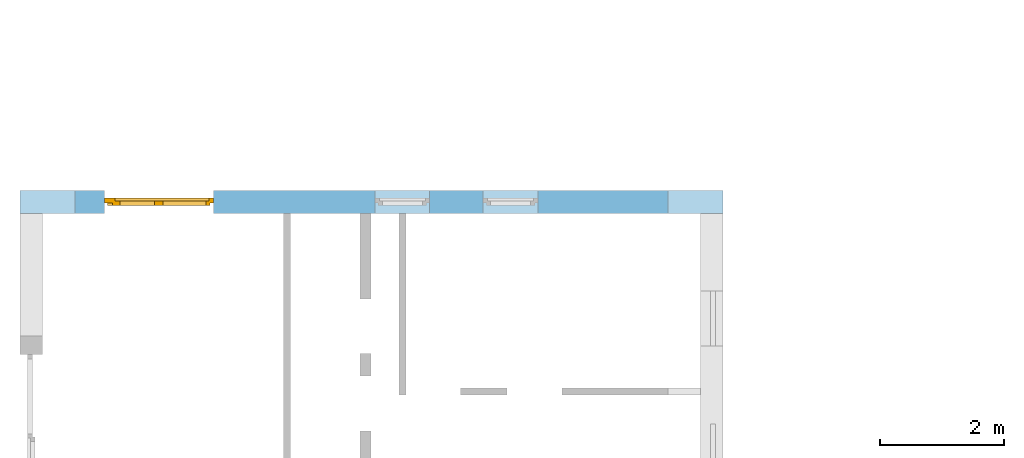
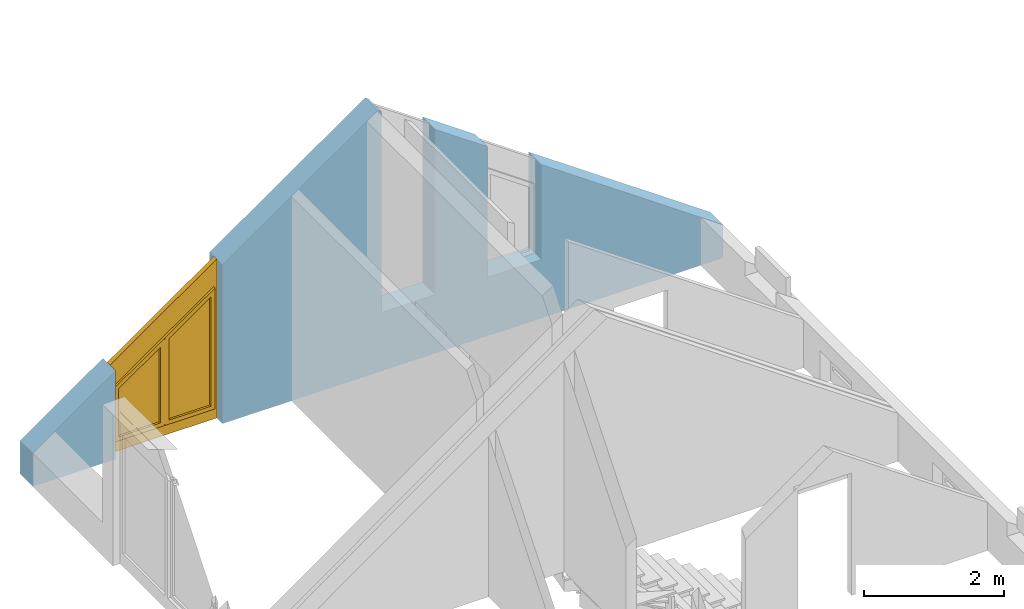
# One storey, part 10 of 23: 1 window, 3 openings, plus 1 element that does not belong to this part.
"""IFC2X3 building model written with IfcOpenShell, lengths in millimetres."""

from ifc_helpers import new_model, entity, si_unit, converted_unit, frame, frame_2d, origin, origin_with_axes, place, context, subcontext, project, spatial, polyline, rectangle, outline, extrude, clip, bounded_halfspace, faceted_brep, material, layer, layer_set, layer_usage, type_object, element, fill, save


model = new_model("IFC2X3")

# Units and contexts
model_context = context("Model", 3, precision=1e-05, world=origin())
body_context = subcontext(model_context, "Body", "Model", "MODEL_VIEW")
ifc_project = project(units=[si_unit("LENGTHUNIT", "METRE", prefix="MILLI"), converted_unit("PLANEANGLEUNIT", "DEGREE", entity("IfcPlaneAngleMeasure", 0.0174532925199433), si_unit("PLANEANGLEUNIT", "RADIAN"), dimensions=[0, 0, 0, 0, 0, 0, 0]), si_unit("AREAUNIT", "SQUARE_METRE"), si_unit("VOLUMEUNIT", "CUBIC_METRE")], contexts=[model_context])

# Building, storey
building_placement = place(None, origin())
building = spatial("IfcBuilding", under=ifc_project, at=building_placement, Name="Gebäude", CompositionType="ELEMENT")
storey_placement = place(building_placement, frame((0.0, 0.0, 5580.0), z_axis=(0.0, 0.0, 1.0), x_axis=(1.0, 0.0, 0.0)))
storey = spatial("IfcBuildingStorey", under=building, at=storey_placement, Name="DG.- Grundriss", CompositionType="ELEMENT", Elevation=5580.0)

# Wall, openings, window
ifc_material_1 = material(Name="Poroton")
ifc_layer = layer(ifc_material_1, 365.0000000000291)
ifc_layer_set = layer_set([ifc_layer])
ifc_layer_usage = layer_usage(ifc_layer_set, "AXIS2", "POSITIVE", 0.0)
wall_placement = place(storey_placement, frame((142357.7928067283, 136889.8877324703, 0.0), z_axis=(0.0, 0.0, 1.0), x_axis=(-1.0, 0.0, 0.0)))
wall = element("IfcWallStandardCase", 1, at=wall_placement, inside=storey, material=ifc_layer_usage, Name="<Unnamed Element>", context=body_context, shape_type="Clipping", body=[
    clip(clip(extrude(rectangle(XDim=11365.00000000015, YDim=365.0000000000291, at=frame_2d((5682.500000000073, 182.5000000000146), x_axis=(1.0, 0.0))), origin_with_axes(), (0.0, 0.0, 1.0), 4558.92933587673), bounded_halfspace(frame((5682.500000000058, 365.0000000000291, 4558.92933587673), z_axis=(0.5735764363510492, 0.0, -0.8191520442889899), x_axis=(-0.8191520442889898, 0.0, -0.5735764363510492)), True, origin(), polyline([(5682.500000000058, 365.0000000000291), (0.0, 365.0000000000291), (0.0, 0.0), (5682.500000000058, 0.0), (5682.500000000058, 365.0000000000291)]))), bounded_halfspace(frame((5682.500000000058, 365.0000000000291, 4558.92933587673), z_axis=(-0.5735764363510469, 0.0, -0.8191520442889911), x_axis=(0.0, -1.0, 0.0)), True, origin(), polyline([(5682.500000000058, 365.0000000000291), (5682.500000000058, 0.0), (11365.00000000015, 0.0), (11365.00000000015, 365.0000000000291), (5682.500000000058, 365.0000000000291)]))),
])
opening_1_placement = place(wall_placement, frame((8240.0, 0.0, 0.0), z_axis=(0.0, 1.0, 0.0), x_axis=(0.0, 0.0, 1.0)))
opening_1 = element("IfcOpeningElement", 2, at=opening_1_placement, cuts=wall, Name="Fensteröffnung", ObjectType="Opening", context=body_context, shape_type="SweptSolid", body=[
    extrude(outline(polyline([(0.0, 1760.0), (0.0, 0.0), (2768.148556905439, 0.0), (1535.783289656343, 1760.0), (0.0, 1760.0)])), origin_with_axes(), (0.0, 0.0, 1.0), 365.0000000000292),
])
opening_2_placement = place(wall_placement, frame((2990.0, 0.0, 1020.0), z_axis=(0.0, 1.0, 0.0), x_axis=(0.0, 0.0, 1.0)))
element("IfcOpeningElement", 3, at=opening_2_placement, cuts=wall, Name="Fensteröffnung", ObjectType="Opening", context=body_context, shape_type="SweptSolid", body=[
    extrude(outline(polyline([(0.0, 885.0), (0.0, 0.0), (1653.620539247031, 0.0), (2273.30421056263, 885.0), (0.0, 885.0)])), origin_with_axes(), (0.0, 0.0, 1.0), 365.0000000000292),
])
opening_3_placement = place(wall_placement, frame((4740.0, 0.0, 1020.0), z_axis=(0.0, 1.0, 0.0), x_axis=(0.0, 0.0, 1.0)))
element("IfcOpeningElement", 4, at=opening_3_placement, cuts=wall, Name="Fensteröffnung", ObjectType="Opening", context=body_context, shape_type="SweptSolid", body=[
    extrude(outline(polyline([(0.0, 885.0), (0.0, 0.0), (2878.983731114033, 0.0), (3498.667402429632, 885.0), (0.0, 885.0)])), origin_with_axes(), (0.0, 0.0, 1.0), 365.0000000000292),
])
ifc_material_2 = material()
window_style = type_object("IfcWindowStyle", Name="Fenster", ConstructionType="NOTDEFINED", OperationType="USERDEFINED", ParameterTakesPrecedence=False, Sizeable=False)
window_placement = place(opening_1_placement, frame((0.0, 0.0, 0.0), z_axis=(1.0, 0.0, 0.0), x_axis=(0.0, 1.0, 0.0)))
window = element("IfcWindow", 5, at=window_placement, inside=storey, type_object=window_style, material=ifc_material_2, Name="Fenster", OverallHeight=2768.148556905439, OverallWidth=1760.0, context=body_context, shape_type="Brep", body=[
    faceted_brep([(9.797174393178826e-15, 200.0000000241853, -2.449293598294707e-15), (1760.0, 200.0000000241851, -2.449293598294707e-15), (1760.0, 200.0000000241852, 1535.783289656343), (9.797174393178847e-15, 200.0000000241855, 2768.148556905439), (1690.0, 200.0000000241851, 220.0), (69.99999999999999, 200.0000000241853, 220.0), (70.00000000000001, 200.0000000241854, 2267.44743138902), (1690.0, 200.0000000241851, 1133.111219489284), (1760.0, 120.0000000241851, 2.449293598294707e-15), (0.0, 120.0000000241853, 2.449293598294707e-15), (2.088393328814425e-29, 120.0000000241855, 2768.148556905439), (1760.0, 120.0000000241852, 1535.783289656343), (69.99999999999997, 120.0000000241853, 220.0), (1690.0, 120.0000000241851, 220.0), (1690.0, 120.0000000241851, 1133.111219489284), (70.0, 120.0000000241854, 2267.44743138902), (1760.0, 200.0000000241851, -2.449293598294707e-15), (9.797174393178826e-15, 200.0000000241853, -2.449293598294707e-15), (0.0, 120.0000000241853, 2.449293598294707e-15), (1760.0, 120.0000000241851, 2.449293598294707e-15), (1760.0, 200.0000000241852, 1535.783289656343), (1760.0, 200.0000000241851, -2.449293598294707e-15), (1760.0, 120.0000000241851, 2.449293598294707e-15), (1760.0, 120.0000000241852, 1535.783289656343), (9.797174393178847e-15, 200.0000000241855, 2768.148556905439), (1760.0, 200.0000000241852, 1535.783289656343), (1760.0, 120.0000000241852, 1535.783289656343), (2.088393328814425e-29, 120.0000000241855, 2768.148556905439), (9.797174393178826e-15, 200.0000000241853, -2.449293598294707e-15), (9.797174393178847e-15, 200.0000000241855, 2768.148556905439), (2.088393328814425e-29, 120.0000000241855, 2768.148556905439), (0.0, 120.0000000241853, 2.449293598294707e-15), (1690.0, 200.0000000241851, 220.0), (1690.0, 120.0000000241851, 220.0), (69.99999999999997, 120.0000000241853, 220.0), (69.99999999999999, 200.0000000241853, 220.0), (1690.0, 200.0000000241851, 1133.111219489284), (1690.0, 120.0000000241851, 1133.111219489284), (1690.0, 120.0000000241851, 220.0), (1690.0, 200.0000000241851, 220.0), (70.00000000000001, 200.0000000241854, 2267.44743138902), (70.0, 120.0000000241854, 2267.44743138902), (1690.0, 120.0000000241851, 1133.111219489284), (1690.0, 200.0000000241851, 1133.111219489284), (69.99999999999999, 200.0000000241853, 220.0), (69.99999999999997, 120.0000000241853, 220.0), (70.0, 120.0000000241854, 2267.44743138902), (70.00000000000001, 200.0000000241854, 2267.44743138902)], [[[0, 1, 2, 3], [4, 5, 6, 7]], [[8, 9, 10, 11], [12, 13, 14, 15]], [[16, 17, 18, 19]], [[20, 21, 22, 23]], [[24, 25, 26, 27]], [[28, 29, 30, 31]], [[32, 33, 34, 35]], [[36, 37, 38, 39]], [[40, 41, 42, 43]], [[44, 45, 46, 47]]], orient=[[False, False], [False, False], [False], [False], [False], [False], [False], [False], [False], [False]]),
    faceted_brep([(859.500000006, 240.0000000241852, 220.0), (859.500000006, 240.0000000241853, 1714.63357996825), (70.00000000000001, 240.0000000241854, 2267.44743138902), (69.99999999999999, 240.0000000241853, 220.0), (809.500000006, 240.0000000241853, 1688.605227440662), (809.500000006, 240.0000000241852, 270.0), (120.0, 240.0000000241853, 270.0), (120.0, 240.0000000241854, 2171.398325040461), (859.500000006, 170.0000000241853, 1714.63357996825), (859.500000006, 170.0000000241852, 220.0), (69.99999999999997, 170.0000000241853, 220.0), (70.0, 170.0000000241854, 2267.44743138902), (809.500000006, 170.0000000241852, 270.0), (809.500000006, 170.0000000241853, 1688.605227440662), (120.0, 170.0000000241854, 2171.398325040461), (120.0, 170.0000000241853, 270.0), (859.500000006, 240.0000000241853, 1714.63357996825), (859.500000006, 240.0000000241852, 220.0), (859.500000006, 170.0000000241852, 220.0), (859.500000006, 170.0000000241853, 1714.63357996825), (70.00000000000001, 240.0000000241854, 2267.44743138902), (859.500000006, 240.0000000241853, 1714.63357996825), (859.500000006, 170.0000000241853, 1714.63357996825), (70.0, 170.0000000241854, 2267.44743138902), (69.99999999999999, 240.0000000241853, 220.0), (70.00000000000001, 240.0000000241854, 2267.44743138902), (70.0, 170.0000000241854, 2267.44743138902), (69.99999999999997, 170.0000000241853, 220.0), (859.500000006, 240.0000000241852, 220.0), (69.99999999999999, 240.0000000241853, 220.0), (69.99999999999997, 170.0000000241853, 220.0), (859.500000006, 170.0000000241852, 220.0), (809.500000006, 240.0000000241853, 1688.605227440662), (809.500000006, 170.0000000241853, 1688.605227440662), (809.500000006, 170.0000000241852, 270.0), (809.500000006, 240.0000000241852, 270.0), (120.0, 240.0000000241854, 2171.398325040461), (120.0, 170.0000000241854, 2171.398325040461), (809.500000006, 170.0000000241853, 1688.605227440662), (809.500000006, 240.0000000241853, 1688.605227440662), (120.0, 240.0000000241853, 270.0), (120.0, 170.0000000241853, 270.0), (120.0, 170.0000000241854, 2171.398325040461), (120.0, 240.0000000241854, 2171.398325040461), (809.500000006, 240.0000000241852, 270.0), (809.500000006, 170.0000000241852, 270.0), (120.0, 170.0000000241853, 270.0), (120.0, 240.0000000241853, 270.0)], [[[0, 1, 2, 3], [4, 5, 6, 7]], [[8, 9, 10, 11], [12, 13, 14, 15]], [[16, 17, 18, 19]], [[20, 21, 22, 23]], [[24, 25, 26, 27]], [[28, 29, 30, 31]], [[32, 33, 34, 35]], [[36, 37, 38, 39]], [[40, 41, 42, 43]], [[44, 45, 46, 47]]], orient=[[False, False], [False, False], [False], [False], [False], [False], [False], [False], [False], [False]]),
    faceted_brep([(879.500000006, 240.0000000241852, 200.0), (879.500000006, 240.0000000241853, 1725.044920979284), (50.00000000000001, 240.0000000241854, 2305.867073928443), (49.99999999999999, 240.0000000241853, 200.0), (859.500000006, 240.0000000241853, 1714.63357996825), (859.500000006, 240.0000000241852, 220.0), (69.99999999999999, 240.0000000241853, 220.0), (70.00000000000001, 240.0000000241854, 2267.44743138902), (879.500000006, 170.0000000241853, 1725.044920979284), (879.500000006, 170.0000000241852, 200.0), (49.99999999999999, 170.0000000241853, 200.0), (50.00000000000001, 170.0000000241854, 2305.867073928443), (859.500000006, 170.0000000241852, 220.0), (859.500000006, 170.0000000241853, 1714.63357996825), (70.0, 170.0000000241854, 2267.44743138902), (69.99999999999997, 170.0000000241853, 220.0), (879.500000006, 240.0000000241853, 1725.044920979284), (879.500000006, 240.0000000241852, 200.0), (879.500000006, 170.0000000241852, 200.0), (879.500000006, 170.0000000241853, 1725.044920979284), (50.00000000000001, 240.0000000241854, 2305.867073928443), (879.500000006, 240.0000000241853, 1725.044920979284), (879.500000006, 170.0000000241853, 1725.044920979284), (50.00000000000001, 170.0000000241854, 2305.867073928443), (49.99999999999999, 240.0000000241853, 200.0), (50.00000000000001, 240.0000000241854, 2305.867073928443), (50.00000000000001, 170.0000000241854, 2305.867073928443), (49.99999999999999, 170.0000000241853, 200.0), (879.500000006, 240.0000000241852, 200.0), (49.99999999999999, 240.0000000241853, 200.0), (49.99999999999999, 170.0000000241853, 200.0), (879.500000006, 170.0000000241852, 200.0), (859.500000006, 240.0000000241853, 1714.63357996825), (859.500000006, 170.0000000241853, 1714.63357996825), (859.500000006, 170.0000000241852, 220.0), (859.500000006, 240.0000000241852, 220.0), (70.00000000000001, 240.0000000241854, 2267.44743138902), (70.0, 170.0000000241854, 2267.44743138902), (859.500000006, 170.0000000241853, 1714.63357996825), (859.500000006, 240.0000000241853, 1714.63357996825), (69.99999999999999, 240.0000000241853, 220.0), (69.99999999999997, 170.0000000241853, 220.0), (70.0, 170.0000000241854, 2267.44743138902), (70.00000000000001, 240.0000000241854, 2267.44743138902), (859.500000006, 240.0000000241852, 220.0), (859.500000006, 170.0000000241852, 220.0), (69.99999999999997, 170.0000000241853, 220.0), (69.99999999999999, 240.0000000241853, 220.0)], [[[0, 1, 2, 3], [4, 5, 6, 7]], [[8, 9, 10, 11], [12, 13, 14, 15]], [[16, 17, 18, 19]], [[20, 21, 22, 23]], [[24, 25, 26, 27]], [[28, 29, 30, 31]], [[32, 33, 34, 35]], [[36, 37, 38, 39]], [[40, 41, 42, 43]], [[44, 45, 46, 47]]], orient=[[False, False], [False, False], [False], [False], [False], [False], [False], [False], [False], [False]]),
    faceted_brep([(1690.0, 240.0000000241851, 1133.111219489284), (860.5000000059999, 240.0000000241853, 1713.93337243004), (860.5000000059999, 240.0000000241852, 220.0), (1690.0, 240.0000000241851, 220.0), (950.5000000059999, 240.0000000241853, 1589.875964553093), (1640.0, 240.0000000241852, 1107.082866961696), (1640.0, 240.0000000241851, 270.0), (950.5000000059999, 240.0000000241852, 270.0), (860.5000000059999, 170.0000000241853, 1713.93337243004), (1690.0, 170.0000000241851, 1133.111219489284), (1690.0, 170.0000000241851, 220.0), (860.5000000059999, 170.0000000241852, 220.0), (1640.0, 170.0000000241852, 1107.082866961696), (950.5000000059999, 170.0000000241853, 1589.875964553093), (950.5000000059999, 170.0000000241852, 270.0), (1640.0, 170.0000000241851, 270.0), (860.5000000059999, 240.0000000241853, 1713.93337243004), (1690.0, 240.0000000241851, 1133.111219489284), (1690.0, 170.0000000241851, 1133.111219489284), (860.5000000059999, 170.0000000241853, 1713.93337243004), (860.5000000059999, 240.0000000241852, 220.0), (860.5000000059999, 240.0000000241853, 1713.93337243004), (860.5000000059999, 170.0000000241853, 1713.93337243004), (860.5000000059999, 170.0000000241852, 220.0), (1690.0, 240.0000000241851, 220.0), (860.5000000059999, 240.0000000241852, 220.0), (860.5000000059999, 170.0000000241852, 220.0), (1690.0, 170.0000000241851, 220.0), (1690.0, 240.0000000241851, 1133.111219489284), (1690.0, 240.0000000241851, 220.0), (1690.0, 170.0000000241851, 220.0), (1690.0, 170.0000000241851, 1133.111219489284), (950.5000000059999, 240.0000000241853, 1589.875964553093), (950.5000000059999, 170.0000000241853, 1589.875964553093), (1640.0, 170.0000000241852, 1107.082866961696), (1640.0, 240.0000000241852, 1107.082866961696), (950.5000000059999, 240.0000000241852, 270.0), (950.5000000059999, 170.0000000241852, 270.0), (950.5000000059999, 170.0000000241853, 1589.875964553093), (950.5000000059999, 240.0000000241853, 1589.875964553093), (1640.0, 240.0000000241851, 270.0), (1640.0, 170.0000000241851, 270.0), (950.5000000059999, 170.0000000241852, 270.0), (950.5000000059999, 240.0000000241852, 270.0), (1640.0, 240.0000000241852, 1107.082866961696), (1640.0, 170.0000000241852, 1107.082866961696), (1640.0, 170.0000000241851, 270.0), (1640.0, 240.0000000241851, 270.0)], [[[0, 1, 2, 3], [4, 5, 6, 7]], [[8, 9, 10, 11], [12, 13, 14, 15]], [[16, 17, 18, 19]], [[20, 21, 22, 23]], [[24, 25, 26, 27]], [[28, 29, 30, 31]], [[32, 33, 34, 35]], [[36, 37, 38, 39]], [[40, 41, 42, 43]], [[44, 45, 46, 47]]], orient=[[False, False], [False, False], [False], [False], [False], [False], [False], [False], [False], [False]]),
    faceted_brep([(1710.0, 240.0000000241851, 1143.522560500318), (880.5000000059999, 240.0000000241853, 1724.344713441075), (880.5000000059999, 240.0000000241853, 1699.929221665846), (1690.0, 240.0000000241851, 1133.111219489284), (1690.0, 240.0000000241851, 220.0), (880.5000000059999, 240.0000000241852, 220.0), (880.5000000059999, 240.0000000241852, 200.0), (1710.0, 240.0000000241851, 200.0), (880.5000000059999, 170.0000000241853, 1724.344713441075), (1710.0, 170.0000000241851, 1143.522560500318), (1710.0, 170.0000000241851, 200.0), (880.5000000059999, 170.0000000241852, 200.0), (880.5000000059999, 170.0000000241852, 220.0), (1690.0, 170.0000000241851, 220.0), (1690.0, 170.0000000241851, 1133.111219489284), (880.5000000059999, 170.0000000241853, 1699.929221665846), (880.5000000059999, 240.0000000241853, 1724.344713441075), (1710.0, 240.0000000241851, 1143.522560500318), (1710.0, 170.0000000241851, 1143.522560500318), (880.5000000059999, 170.0000000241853, 1724.344713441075), (880.5000000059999, 240.0000000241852, 200.0), (880.5000000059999, 240.0000000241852, 220.0), (880.5000000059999, 170.0000000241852, 220.0), (880.5000000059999, 170.0000000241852, 200.0), (880.5000000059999, 170.0000000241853, 1699.929221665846), (880.5000000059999, 240.0000000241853, 1699.929221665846), (880.5000000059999, 240.0000000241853, 1724.344713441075), (880.5000000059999, 170.0000000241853, 1724.344713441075), (1710.0, 240.0000000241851, 200.0), (880.5000000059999, 240.0000000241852, 200.0), (880.5000000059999, 170.0000000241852, 200.0), (1710.0, 170.0000000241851, 200.0), (1710.0, 240.0000000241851, 1143.522560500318), (1710.0, 240.0000000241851, 200.0), (1710.0, 170.0000000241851, 200.0), (1710.0, 170.0000000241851, 1143.522560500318), (880.5000000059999, 240.0000000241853, 1699.929221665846), (880.5000000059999, 170.0000000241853, 1699.929221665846), (1690.0, 170.0000000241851, 1133.111219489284), (1690.0, 240.0000000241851, 1133.111219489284), (1690.0, 240.0000000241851, 220.0), (1690.0, 170.0000000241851, 220.0), (880.5000000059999, 170.0000000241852, 220.0), (880.5000000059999, 240.0000000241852, 220.0), (1690.0, 240.0000000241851, 1133.111219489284), (1690.0, 170.0000000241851, 1133.111219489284), (1690.0, 170.0000000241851, 220.0), (1690.0, 240.0000000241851, 220.0)], [[[0, 1, 2, 3, 4, 5, 6, 7]], [[8, 9, 10, 11, 12, 13, 14, 15]], [[16, 17, 18, 19]], [[20, 21, 22, 23]], [[24, 25, 26, 27]], [[28, 29, 30, 31]], [[32, 33, 34, 35]], [[36, 37, 38, 39]], [[40, 41, 42, 43]], [[44, 45, 46, 47]]], orient=[[False], [False], [False], [False], [False], [False], [False], [False], [False], [False]]),
    faceted_brep([(809.500000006, 205.0000000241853, 1688.605227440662), (120.0, 205.0000000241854, 2171.398325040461), (120.0, 205.0000000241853, 270.0), (809.500000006, 205.0000000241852, 270.0), (809.500000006, 204.0000000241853, 1688.605227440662), (809.500000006, 204.0000000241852, 270.0), (120.0, 204.0000000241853, 270.0), (120.0, 204.0000000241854, 2171.398325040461), (809.500000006, 205.0000000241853, 1688.605227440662), (809.500000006, 204.0000000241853, 1688.605227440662), (120.0, 204.0000000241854, 2171.398325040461), (120.0, 205.0000000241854, 2171.398325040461), (120.0, 205.0000000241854, 2171.398325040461), (120.0, 204.0000000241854, 2171.398325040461), (120.0, 204.0000000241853, 270.0), (120.0, 205.0000000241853, 270.0), (120.0, 205.0000000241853, 270.0), (120.0, 204.0000000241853, 270.0), (809.500000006, 204.0000000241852, 270.0), (809.500000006, 205.0000000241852, 270.0), (809.500000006, 205.0000000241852, 270.0), (809.500000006, 204.0000000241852, 270.0), (809.500000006, 204.0000000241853, 1688.605227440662), (809.500000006, 205.0000000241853, 1688.605227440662)], [[[0, 1, 2, 3]], [[4, 5, 6, 7]], [[8, 9, 10, 11]], [[12, 13, 14, 15]], [[16, 17, 18, 19]], [[20, 21, 22, 23]]], orient=[[False], [False], [False], [False], [False], [False]]),
    faceted_brep([(950.5000000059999, 205.0000000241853, 1589.875964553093), (950.5000000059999, 205.0000000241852, 270.0), (1640.0, 205.0000000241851, 270.0), (1640.0, 205.0000000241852, 1107.082866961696), (950.5000000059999, 204.0000000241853, 1589.875964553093), (1640.0, 204.0000000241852, 1107.082866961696), (1640.0, 204.0000000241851, 270.0), (950.5000000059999, 204.0000000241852, 270.0), (950.5000000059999, 205.0000000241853, 1589.875964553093), (950.5000000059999, 204.0000000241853, 1589.875964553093), (950.5000000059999, 204.0000000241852, 270.0), (950.5000000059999, 205.0000000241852, 270.0), (950.5000000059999, 205.0000000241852, 270.0), (950.5000000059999, 204.0000000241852, 270.0), (1640.0, 204.0000000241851, 270.0), (1640.0, 205.0000000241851, 270.0), (1640.0, 205.0000000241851, 270.0), (1640.0, 204.0000000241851, 270.0), (1640.0, 204.0000000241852, 1107.082866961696), (1640.0, 205.0000000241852, 1107.082866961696), (1640.0, 205.0000000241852, 1107.082866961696), (1640.0, 204.0000000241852, 1107.082866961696), (950.5000000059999, 204.0000000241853, 1589.875964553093), (950.5000000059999, 205.0000000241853, 1589.875964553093)], [[[0, 1, 2, 3]], [[4, 5, 6, 7]], [[8, 9, 10, 11]], [[12, 13, 14, 15]], [[16, 17, 18, 19]], [[20, 21, 22, 23]]], orient=[[False], [False], [False], [False], [False], [False]]),
])
fill(opening_1, window)

save(model, "model.ifc")
